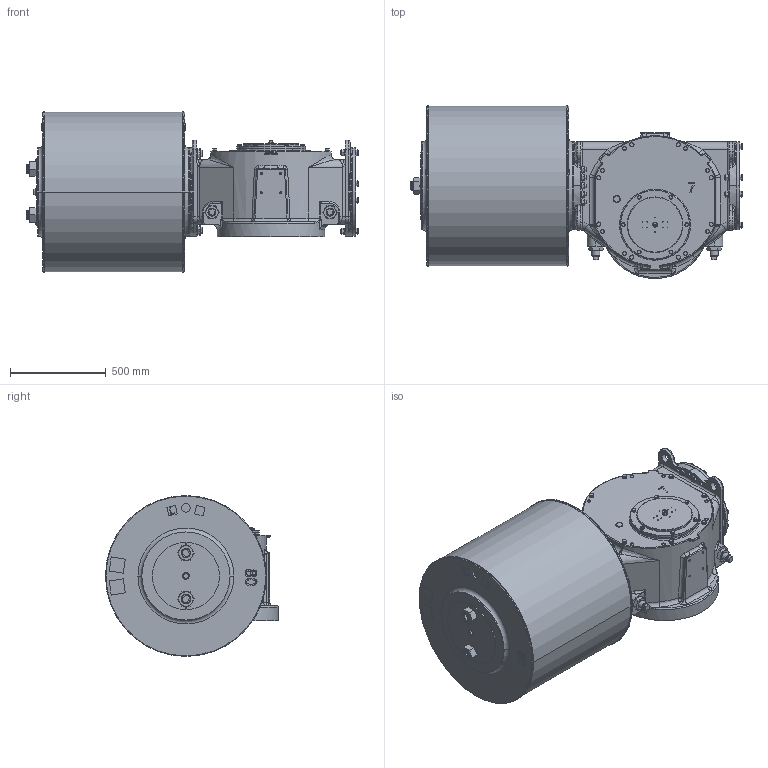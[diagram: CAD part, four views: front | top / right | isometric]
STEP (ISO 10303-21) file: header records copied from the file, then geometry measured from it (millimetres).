
FILE_DESCRIPTION (( 'STEP AP203' ), '1' );
FILE_NAME ('VTS7-800.STEP', '2023-01-01T10:16:42', ( '' ), ( '' ), 'SwSTEP 2.0', 'SolidWorks 2020', '' );
FILE_SCHEMA (( 'CONFIG_CONTROL_DESIGN' ));
Length unit declared in the file: millimetre
Products named in the file (1): VTS7-800
Bounding box: 1731.71 x 902.5 x 839 mm (x, y, z)
Volume: 599523900.1 mm3; surface area: 6701534.3 mm2
Topology: 27 solids, 35 shells, 2955 faces, 7360 edges, 4513 vertices
Faces by surface type: plane 983, cylinder 974, cone 628, bspline 362, torus 8
Entity records: 116124 total; most frequent: CARTESIAN_POINT 48157, ORIENTED_EDGE 14436, DIRECTION 14077, EDGE_CURVE 7218, AXIS2_PLACEMENT_3D 5653, VERTEX_POINT 4513, EDGE_LOOP 3259, CIRCLE 3059
